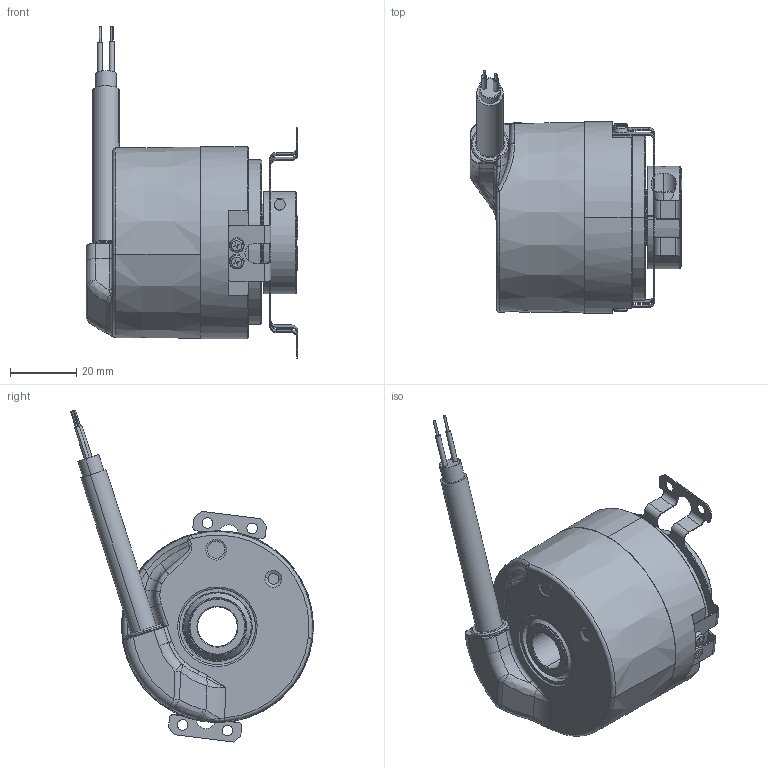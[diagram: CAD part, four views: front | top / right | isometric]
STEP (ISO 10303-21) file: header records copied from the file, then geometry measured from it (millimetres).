
FILE_DESCRIPTION (( 'STEP AP203' ), '1' );
FILE_NAME ('8.5834SIL.B4XE.XXXX.STEP', '2012-02-27T13:13:32', ( 'Hodot' ), ( 'Kuebler' ), 'SwSTEP 2.0', 'SolidWorks 2009', '' );
FILE_SCHEMA (( 'CONFIG_CONTROL_DESIGN' ));
Length unit declared in the file: millimetre
Products named in the file (1): 8.5834SIL.B4XE.XXXX
Bounding box: 64 x 73.36 x 100.31 mm (x, y, z)
Volume: 69064.4 mm3; surface area: 47949.2 mm2
Topology: 14 solids, 14 shells, 1738 faces, 4144 edges, 2476 vertices
Faces by surface type: cylinder 590, plane 448, bspline 365, cone 165, torus 152, sphere 18
Entity records: 70735 total; most frequent: CARTESIAN_POINT 32807, ORIENTED_EDGE 8192, DIRECTION 7478, EDGE_CURVE 4096, AXIS2_PLACEMENT_3D 3016, VERTEX_POINT 2476, EDGE_LOOP 1876, ADVANCED_FACE 1738
